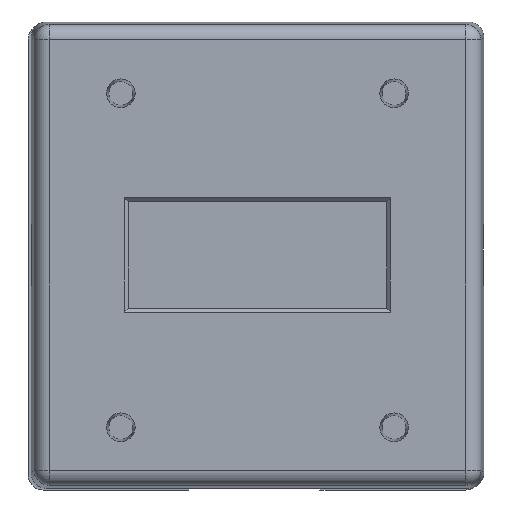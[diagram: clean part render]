
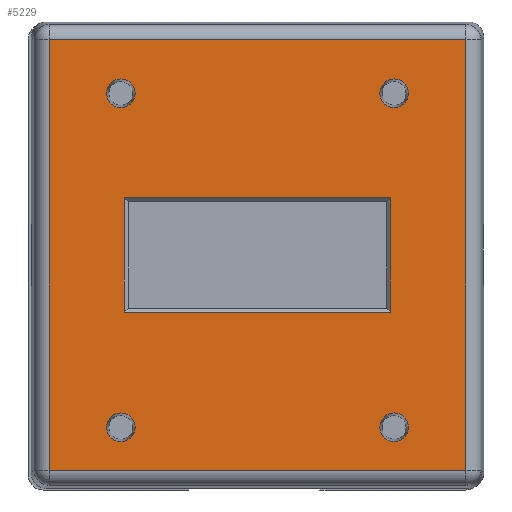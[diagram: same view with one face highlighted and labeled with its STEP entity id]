
A CAD part, top view. The second image highlights one B-rep face of the part: STEP entity #5229.
In plain terms, the highlighted planar face has unit normal (0, 0, 1).
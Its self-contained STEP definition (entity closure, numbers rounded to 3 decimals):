
#496=VECTOR('',#5703,1.);
#497=VECTOR('',#5704,1.);
#498=VECTOR('',#5705,1.);
#499=VECTOR('',#5706,1.);
#500=VECTOR('',#5715,1.);
#501=VECTOR('',#5716,1.);
#502=VECTOR('',#5717,1.);
#503=VECTOR('',#5718,1.);
#1122=LINE('',#6965,#496);
#1123=LINE('',#6968,#497);
#1124=LINE('',#6970,#498);
#1125=LINE('',#6972,#499);
#1126=LINE('',#6981,#500);
#1127=LINE('',#6984,#501);
#1128=LINE('',#6986,#502);
#1129=LINE('',#6988,#503);
#1640=PLANE('',#8307);
#1963=VERTEX_POINT('',#6966);
#1964=VERTEX_POINT('',#6967);
#1965=VERTEX_POINT('',#6969);
#1966=VERTEX_POINT('',#6971);
#1967=VERTEX_POINT('',#6974);
#1968=VERTEX_POINT('',#6976);
#1969=VERTEX_POINT('',#6978);
#1970=VERTEX_POINT('',#6980);
#1971=VERTEX_POINT('',#6982);
#1972=VERTEX_POINT('',#6983);
#1973=VERTEX_POINT('',#6985);
#1974=VERTEX_POINT('',#6987);
#2343=CIRCLE('',#8308,1.199);
#2344=CIRCLE('',#8309,1.199);
#2345=CIRCLE('',#8310,1.199);
#2346=CIRCLE('',#8311,1.199);
#2527=EDGE_CURVE('',#1963,#1964,#1122,.T.);
#2528=EDGE_CURVE('',#1964,#1965,#1123,.T.);
#2529=EDGE_CURVE('',#1965,#1966,#1124,.T.);
#2530=EDGE_CURVE('',#1966,#1963,#1125,.T.);
#2531=EDGE_CURVE('',#1967,#1967,#2343,.T.);
#2532=EDGE_CURVE('',#1968,#1968,#2344,.T.);
#2533=EDGE_CURVE('',#1969,#1969,#2345,.T.);
#2534=EDGE_CURVE('',#1970,#1970,#2346,.T.);
#2535=EDGE_CURVE('',#1971,#1972,#1126,.T.);
#2536=EDGE_CURVE('',#1973,#1971,#1127,.T.);
#2537=EDGE_CURVE('',#1974,#1973,#1128,.T.);
#2538=EDGE_CURVE('',#1972,#1974,#1129,.T.);
#3275=ORIENTED_EDGE('',*,*,#2527,.T.);
#3276=ORIENTED_EDGE('',*,*,#2528,.T.);
#3277=ORIENTED_EDGE('',*,*,#2529,.T.);
#3278=ORIENTED_EDGE('',*,*,#2530,.T.);
#3279=ORIENTED_EDGE('',*,*,#2531,.T.);
#3280=ORIENTED_EDGE('',*,*,#2532,.T.);
#3281=ORIENTED_EDGE('',*,*,#2533,.T.);
#3282=ORIENTED_EDGE('',*,*,#2534,.T.);
#3283=ORIENTED_EDGE('',*,*,#2535,.F.);
#3284=ORIENTED_EDGE('',*,*,#2536,.F.);
#3285=ORIENTED_EDGE('',*,*,#2537,.F.);
#3286=ORIENTED_EDGE('',*,*,#2538,.F.);
#4613=EDGE_LOOP('',(#3275,#3276,#3277,#3278));
#4614=EDGE_LOOP('',(#3279));
#4615=EDGE_LOOP('',(#3280));
#4616=EDGE_LOOP('',(#3281));
#4617=EDGE_LOOP('',(#3282));
#4618=EDGE_LOOP('',(#3283,#3284,#3285,#3286));
#4927=FACE_BOUND('',#4613,.T.);
#4928=FACE_BOUND('',#4614,.T.);
#4929=FACE_BOUND('',#4615,.T.);
#4930=FACE_BOUND('',#4616,.T.);
#4931=FACE_BOUND('',#4617,.T.);
#4932=FACE_BOUND('',#4618,.T.);
#5229=ADVANCED_FACE('',(#4927,#4928,#4929,#4930,#4931,#4932),#1640,.F.);
#5702=DIRECTION('',(0.,0.,-1.));
#5703=DIRECTION('',(0.,-1.,0.));
#5704=DIRECTION('',(-1.,0.,0.));
#5705=DIRECTION('',(0.,1.,0.));
#5706=DIRECTION('',(1.,0.,0.));
#5707=DIRECTION('',(0.,0.,-1.));
#5708=DIRECTION('',(0.,1.199,0.));
#5709=DIRECTION('',(0.,0.,-1.));
#5710=DIRECTION('',(0.,1.199,0.));
#5711=DIRECTION('',(0.,0.,-1.));
#5712=DIRECTION('',(0.,1.199,0.));
#5713=DIRECTION('',(0.,0.,-1.));
#5714=DIRECTION('',(0.,1.199,0.));
#5715=DIRECTION('',(1.,0.,0.));
#5716=DIRECTION('',(0.,1.,0.));
#5717=DIRECTION('',(-1.,0.,0.));
#5718=DIRECTION('',(0.,-1.,0.));
#6964=CARTESIAN_POINT('',(0.005,0.,13.684));
#6965=CARTESIAN_POINT('',(11.131,0.,13.684));
#6966=CARTESIAN_POINT('',(11.131,4.775,13.684));
#6967=CARTESIAN_POINT('',(11.131,-4.775,13.684));
#6968=CARTESIAN_POINT('',(0.005,-4.775,13.684));
#6969=CARTESIAN_POINT('',(-11.12,-4.775,13.684));
#6970=CARTESIAN_POINT('',(-11.12,0.,13.684));
#6971=CARTESIAN_POINT('',(-11.12,4.775,13.684));
#6972=CARTESIAN_POINT('',(0.005,4.775,13.684));
#6973=CARTESIAN_POINT('',(11.435,-14.415,13.684));
#6974=CARTESIAN_POINT('',(11.435,-13.215,13.684));
#6975=CARTESIAN_POINT('',(-11.425,13.526,13.684));
#6976=CARTESIAN_POINT('',(-11.425,14.725,13.684));
#6977=CARTESIAN_POINT('',(-11.425,-14.415,13.684));
#6978=CARTESIAN_POINT('',(-11.425,-13.215,13.684));
#6979=CARTESIAN_POINT('',(11.435,13.526,13.684));
#6980=CARTESIAN_POINT('',(11.435,14.725,13.684));
#6981=CARTESIAN_POINT('',(0.005,18.007,13.684));
#6982=CARTESIAN_POINT('',(-17.431,18.007,13.684));
#6983=CARTESIAN_POINT('',(17.441,18.007,13.684));
#6984=CARTESIAN_POINT('',(-17.431,0.,13.684));
#6985=CARTESIAN_POINT('',(-17.431,-18.007,13.684));
#6986=CARTESIAN_POINT('',(0.005,-18.007,13.684));
#6987=CARTESIAN_POINT('',(17.441,-18.007,13.684));
#6988=CARTESIAN_POINT('',(17.441,0.,13.684));
#8307=AXIS2_PLACEMENT_3D('',#6964,#5702,$);
#8308=AXIS2_PLACEMENT_3D('',#6973,#5707,#5708);
#8309=AXIS2_PLACEMENT_3D('',#6975,#5709,#5710);
#8310=AXIS2_PLACEMENT_3D('',#6977,#5711,#5712);
#8311=AXIS2_PLACEMENT_3D('',#6979,#5713,#5714);
